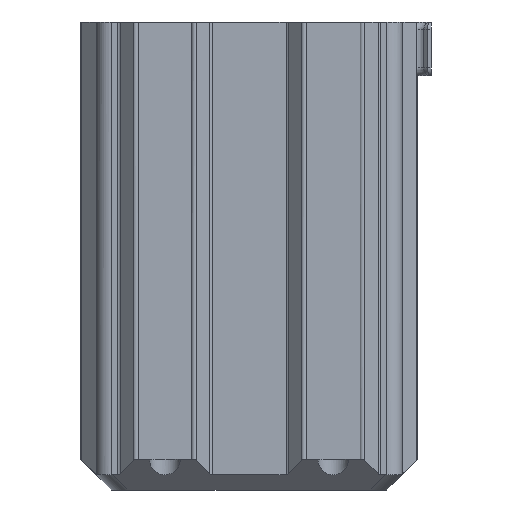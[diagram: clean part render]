
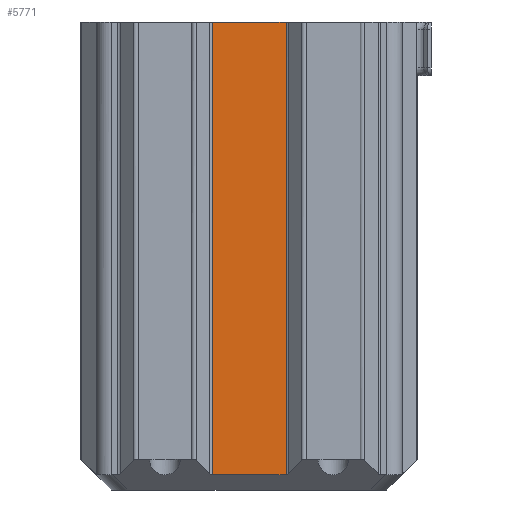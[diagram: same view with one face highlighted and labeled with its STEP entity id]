
A CAD part, left-side view. The second image highlights one B-rep face of the part: STEP entity #5771.
In plain terms, the highlighted planar face has unit normal (-1, 0, 0).
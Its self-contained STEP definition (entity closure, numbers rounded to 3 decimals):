
#658=FACE_OUTER_BOUND('',#954,.T.);
#954=EDGE_LOOP('',(#4802,#4803,#4804,#4805));
#1177=LINE('',#8562,#1713);
#1438=LINE('',#9375,#1974);
#1452=LINE('',#9411,#1988);
#1489=LINE('',#9512,#2025);
#1713=VECTOR('',#6817,10.);
#1974=VECTOR('',#7658,10.);
#1988=VECTOR('',#7698,10.);
#2025=VECTOR('',#7831,10.);
#2273=VERTEX_POINT('',#8559);
#2274=VERTEX_POINT('',#8561);
#2535=VERTEX_POINT('',#9372);
#2536=VERTEX_POINT('',#9374);
#2852=EDGE_CURVE('',#2273,#2274,#1177,.T.);
#3259=EDGE_CURVE('',#2535,#2536,#1438,.T.);
#3279=EDGE_CURVE('',#2536,#2273,#1452,.T.);
#3330=EDGE_CURVE('',#2274,#2535,#1489,.T.);
#4802=ORIENTED_EDGE('',*,*,#3279,.F.);
#4803=ORIENTED_EDGE('',*,*,#3259,.F.);
#4804=ORIENTED_EDGE('',*,*,#3330,.F.);
#4805=ORIENTED_EDGE('',*,*,#2852,.F.);
#5223=PLANE('',#6319);
#5771=ADVANCED_FACE('',(#658),#5223,.T.);
#6319=AXIS2_PLACEMENT_3D('',#9515,#7836,#7837);
#6817=DIRECTION('',(0.,-1.,0.));
#7658=DIRECTION('',(0.,1.,0.));
#7698=DIRECTION('',(0.,0.,1.));
#7831=DIRECTION('',(0.,0.,-1.));
#7836=DIRECTION('center_axis',(-1.,0.,0.));
#7837=DIRECTION('ref_axis',(0.,1.,0.));
#8559=CARTESIAN_POINT('',(2.,26.834,0.));
#8561=CARTESIAN_POINT('',(2.,17.166,0.));
#8562=CARTESIAN_POINT('',(2.,42.,0.));
#9372=CARTESIAN_POINT('',(2.,17.166,-59.2));
#9374=CARTESIAN_POINT('',(2.,26.834,-59.2));
#9375=CARTESIAN_POINT('',(2.,12.,-59.2));
#9411=CARTESIAN_POINT('',(2.,26.834,0.));
#9512=CARTESIAN_POINT('',(2.,17.166,0.));
#9515=CARTESIAN_POINT('Origin',(2.,2.,0.));
